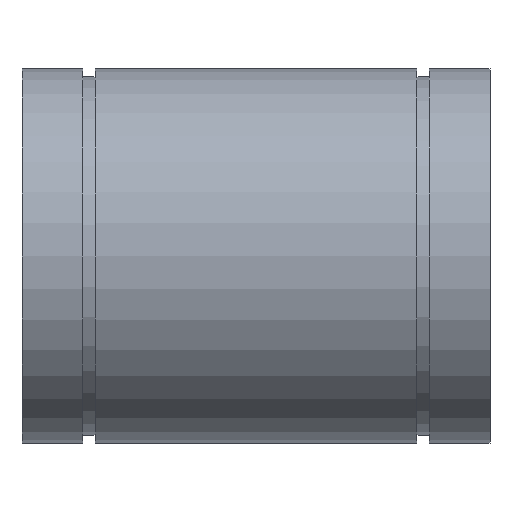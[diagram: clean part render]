
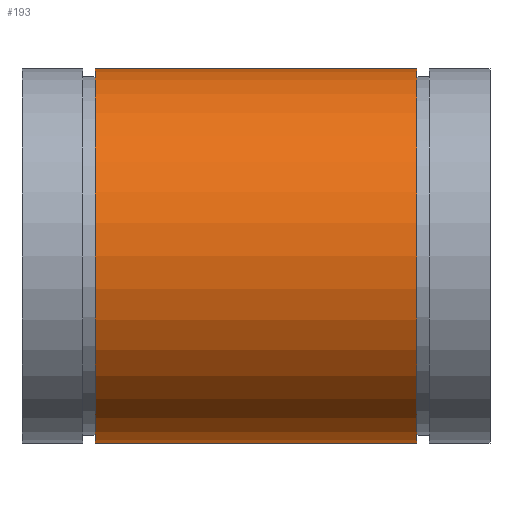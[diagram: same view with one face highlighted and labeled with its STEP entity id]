
A CAD part, front view. The second image highlights one B-rep face of the part: STEP entity #193.
In plain terms, the highlighted cylindrical face has radius 40 mm (diameter 80 mm), a full revolution.
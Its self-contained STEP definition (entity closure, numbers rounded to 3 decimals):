
#193=ADVANCED_FACE('',(#231,#232),#209,.T.);
#209=CYLINDRICAL_SURFACE('',#414,40.);
#231=FACE_BOUND('',#271,.T.);
#232=FACE_BOUND('',#272,.T.);
#271=EDGE_LOOP('',(#311));
#272=EDGE_LOOP('',(#312));
#311=ORIENTED_EDGE('',*,*,#364,.F.);
#312=ORIENTED_EDGE('',*,*,#363,.T.);
#343=VERTEX_POINT('',#543);
#344=VERTEX_POINT('',#546);
#363=EDGE_CURVE('',#343,#343,#383,.T.);
#364=EDGE_CURVE('',#344,#344,#384,.T.);
#383=CIRCLE('',#411,40.);
#384=CIRCLE('',#413,40.);
#411=AXIS2_PLACEMENT_3D('',#542,#468,#469);
#413=AXIS2_PLACEMENT_3D('',#545,#472,#473);
#414=AXIS2_PLACEMENT_3D('',#547,#474,#475);
#468=DIRECTION('',(1.,0.,0.));
#469=DIRECTION('',(0.,0.,-1.));
#472=DIRECTION('',(1.,0.,0.));
#473=DIRECTION('',(0.,0.,-1.));
#474=DIRECTION('',(-1.,0.,0.));
#475=DIRECTION('',(0.,0.,-1.));
#542=CARTESIAN_POINT('',(15.6,0.,0.));
#543=CARTESIAN_POINT('',(15.6,0.,-40.));
#545=CARTESIAN_POINT('',(84.4,0.,0.));
#546=CARTESIAN_POINT('',(84.4,0.,-40.));
#547=CARTESIAN_POINT('',(100.,0.,0.));
